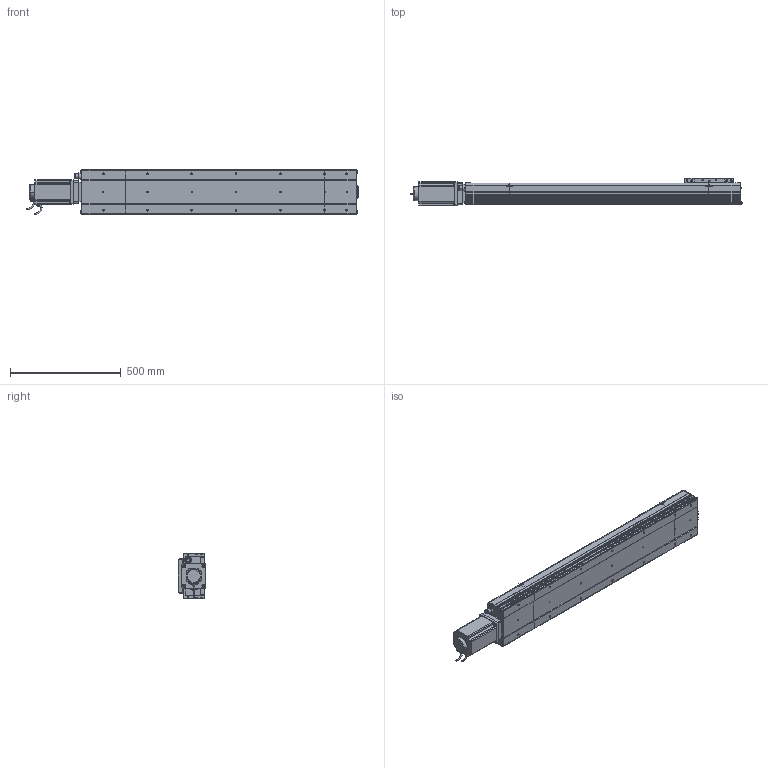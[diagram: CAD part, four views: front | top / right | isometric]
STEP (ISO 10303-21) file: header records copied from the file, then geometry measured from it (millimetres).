
FILE_DESCRIPTION (( 'STEP AP214' ), '1' );
FILE_NAME ('D20 CSH MD S900.STEP', '2010-06-30T08:12:23', ( 'Conseil Régional Haute-Normandie' ), ( 'Conseil Régional Haute-Normandie' ), 'SwSTEP 2.0', 'SolidWorks 2010', '' );
FILE_SCHEMA (( 'AUTOMOTIVE_DESIGN' ));
Length unit declared in the file: millimetre
Products named in the file (28): Head D20 MD_Default; Couvercle Head_Default; Corp Head D20_Default; Plaque de Bout Head D20_Default; vis M5 L15_Default; Support Chariot D20_Default; Chariot D20_Default; Glissiere_Default; clavette; Conecteur_Default; Conecteur2_Default; avant 110BLDC170A-630x; Moteur motionking 110BLDC170A-640x; vis M8 L15_Default; codeur 110BLDC170A-630x; corps 110BLDC170A-630x; Plaque racord D20_Default; Plaque De Serrage Head D20_Default; Corp Tail D20+100_Default; Tail D20+100_Default; D20 CSH MD S900; Plaque De Serrage D20_Default; Plaque de Bout Tail D20_Default; Couvercle_Default; Couvercle S900_Default; Corp S900_Default; Corp D20 S900_Default
Assembly tree (53 placements, depth 4):
  D20 CSH MD S900
    Tail D20+100_Default
      vis M5 L15_Default  x6
      Plaque De Serrage D20_Default
      Plaque de Bout Tail D20_Default
      Couvercle_Default
      Corp Tail D20+100_Default
    Head D20 MD_Default
      Plaque racord D20_Default
      vis M5 L15_Default  x10
      Corp Head D20_Default
      vis M8 L15_Default  x4
      Plaque de Bout Head D20_Default
      Couvercle Head_Default
      Plaque De Serrage Head D20_Default
      Moteur motionking 110BLDC170A-640x
        avant 110BLDC170A-630x
        codeur 110BLDC170A-630x
        corps 110BLDC170A-630x
        Conecteur2_Default
        Conecteur_Default
        clavette
    Chariot D20_Default
      Glissiere_Default
      vis M5 L15_Default  x8
      Support Chariot D20_Default
      Chariot D20_Default
    Corp D20 S900_Default
      Couvercle S900_Default
      Corp S900_Default
Bounding box: 1499 x 125.5 x 206 mm (x, y, z)
Volume: 10863284.3 mm3; surface area: 1922705.5 mm2
Topology: 90 solids, 90 shells, 3415 faces, 8609 edges, 5625 vertices
Faces by surface type: plane 1944, bspline 758, cylinder 575, torus 79, cone 59
Entity records: 153027 total; most frequent: CARTESIAN_POINT 79370, ORIENTED_EDGE 14614, DIRECTION 10907, EDGE_CURVE 7307, VERTEX_POINT 4845, VECTOR 4799, LINE 4799, EDGE_LOOP 3096
